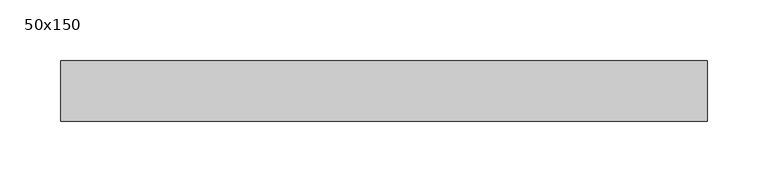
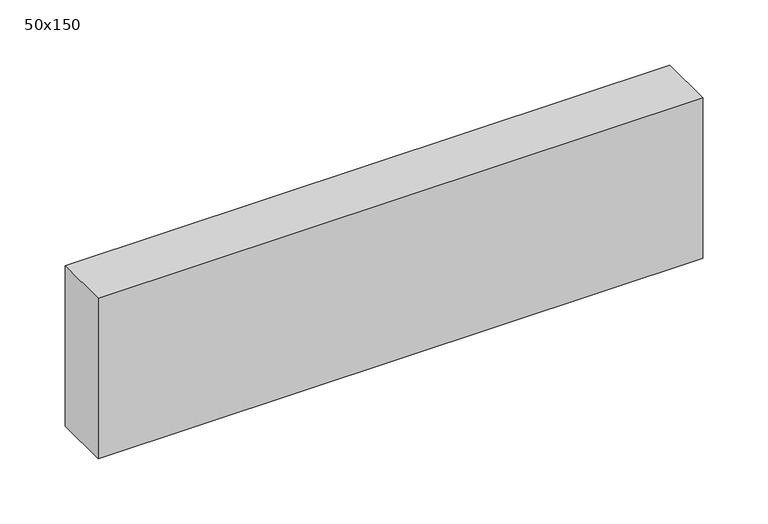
"""IFC4 building model written with IfcOpenShell, lengths in millimetres: beam geometry, Graded Timber : 50x150."""

from ifc_helpers import new_model, si_unit, frame, origin, place, context, project, spatial, polyline, outline, extrude, source, transform, mapped, element, save


def beam_50x150_e260a1b6(model_context):
    return source(origin(), model_context, "Body", "SweptSolid", [
        extrude(outline(polyline([(268.8313219, 25.0), (268.8313219, -25.0), (-265.5, -25.0), (-265.5, 25.0), (268.8313219, 25.0)])), frame((0.0, 0.0, -75.0), z_axis=(0.0, 0.0, 1.0), x_axis=(1.0, 0.0, 0.0)), (0.0, 0.0, 1.0), 150.0),
    ])


if __name__ == "__main__":
    model = new_model("IFC4")
    model_context = context("Model", 3, world=origin())
    ifc_project = project(units=[si_unit("LENGTHUNIT", "METRE", prefix="MILLI")], contexts=[model_context])
    site = spatial("IfcSite", under=ifc_project)
    building = spatial("IfcBuilding", under=site)
    placement = place(None, origin())
    beam_50x150_shape = beam_50x150_e260a1b6(model_context)
    element("IfcBeam", 1, ObjectType="Graded Timber : 50x150", at=placement, inside=building, context=model_context, shape_type="MappedRepresentation", body=[
        mapped(beam_50x150_shape, transform((0.0, 0.0, 0.0), x_axis=(1.0, 0.0, 0.0), y_axis=(0.0, 1.0, 0.0), z_axis=(0.0, 0.0, 1.0))),
    ])
    save(model, "model.ifc")
